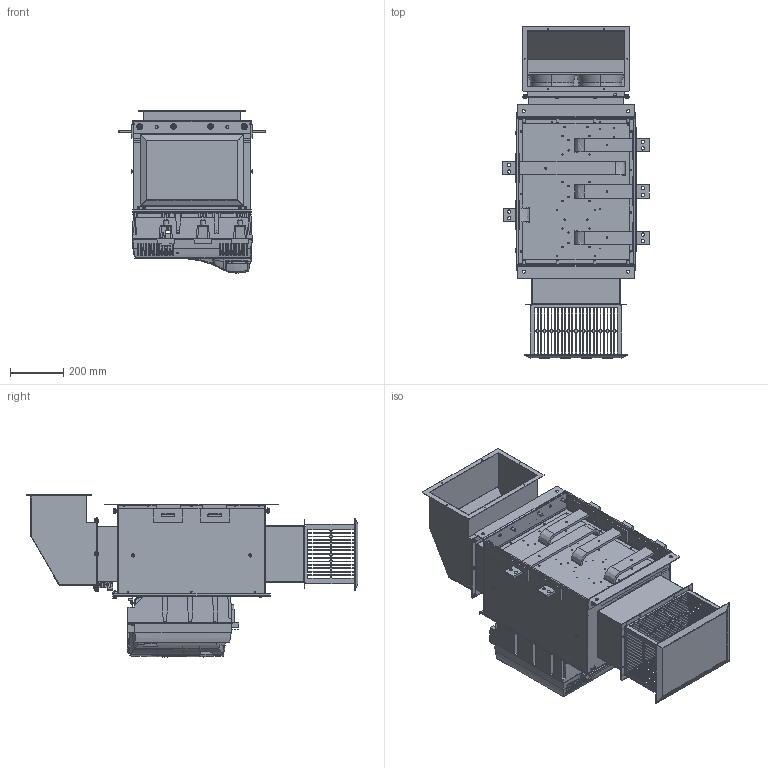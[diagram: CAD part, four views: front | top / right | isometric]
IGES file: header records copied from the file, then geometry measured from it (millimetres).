
Start section:  PTC IGES file: mentor_size_2c_iges.igs
Global section: file name: mentor_size_2c_iges.igs; native system: Pro/ENGINEER by Parametric Technology Corporation; preprocessor: 2007160; author: wongch01; organization: Unknown; date: 20100311.095447; units: millimetre
Bounding box: 554 x 1251.1 x 610.97 mm (x, y, z)
Surface area: 6577852.1 mm2 (no closed solid volume)
Topology: 0 solids, 391 shells, 1823 faces, 12970 edges, 11161 vertices
Faces by surface type: bspline 1823
